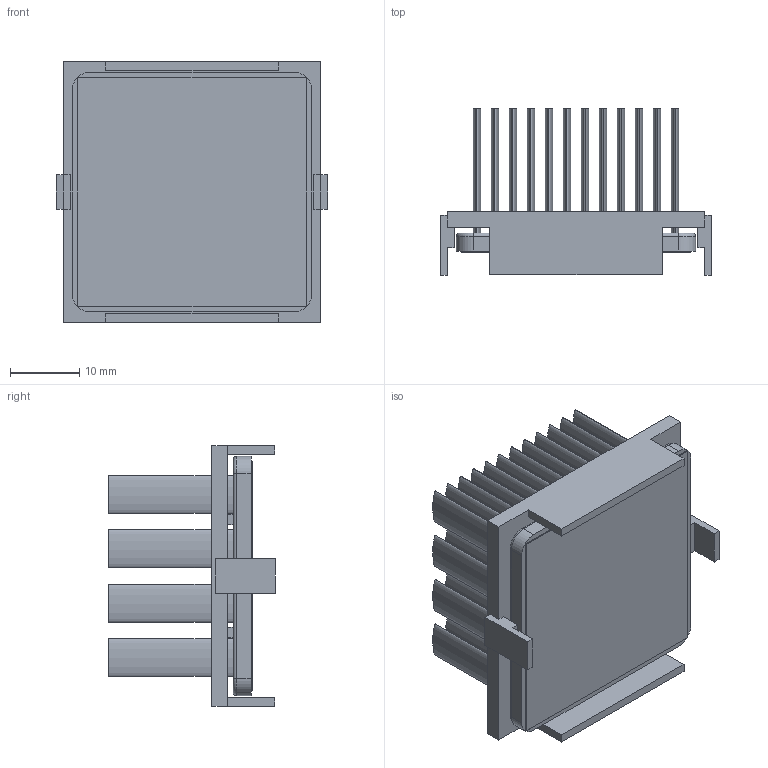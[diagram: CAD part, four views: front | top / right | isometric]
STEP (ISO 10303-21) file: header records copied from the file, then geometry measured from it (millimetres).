
FILE_DESCRIPTION (( 'STEP AP214' ), '1' );
FILE_NAME ('INM35001-21W-2.6Y.STEP', '2023-02-20T22:44:41', ( '' ), ( '' ), 'SwSTEP 2.0', 'SolidWorks 2020', '' );
FILE_SCHEMA (( 'AUTOMOTIVE_DESIGN' ));
Length unit declared in the file: inch
Products named in the file (1): INM35001-21W-2.6Y
Bounding box: 39.2 x 24.1 x 37.7 mm (x, y, z)
Volume: 8969.7 mm3; surface area: 17538.2 mm2
Topology: 3 solids, 3 shells, 226 faces, 508 edges, 336 vertices
Faces by surface type: plane 118, bspline 96, cylinder 8, torus 4
Entity records: 9460 total; most frequent: CARTESIAN_POINT 2319, ORIENTED_EDGE 1016, DIRECTION 598, EDGE_CURVE 508, VERTEX_POINT 336, VECTOR 296, LINE 296, EDGE_LOOP 276
